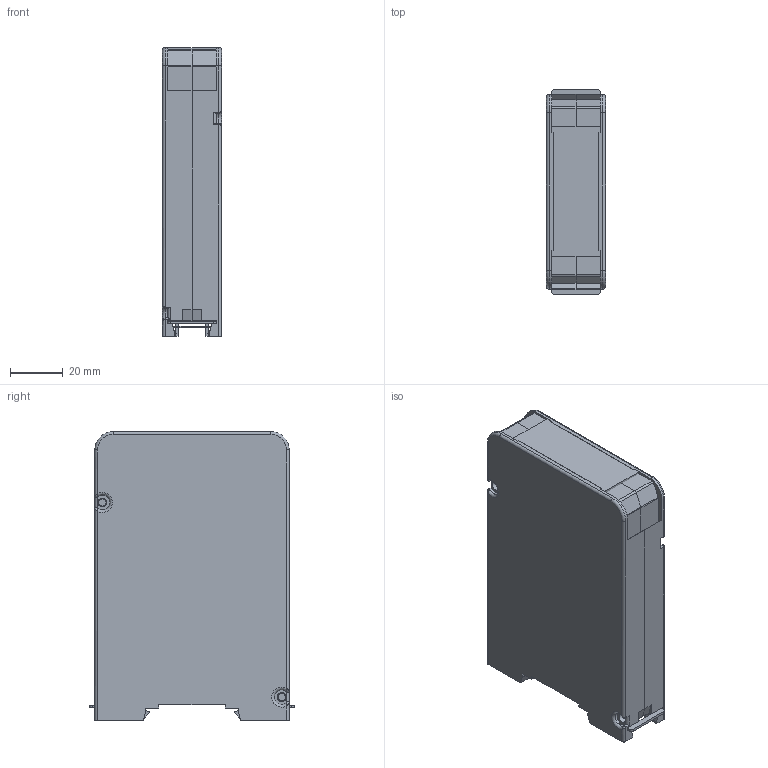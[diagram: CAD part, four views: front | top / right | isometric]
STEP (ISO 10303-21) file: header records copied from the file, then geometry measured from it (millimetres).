
FILE_DESCRIPTION(/* description */ (''),/* implementation_level */ '2;1');
FILE_NAME(/* name */ 'X:\Digidirect\CAD\Helmut Mess 03 2015\XM22\XM22.stp',/* time_stamp */ '2015-03-13T06:55:07+01:00',/* author */ ('m.jost'),/* organization */ (''),/* preprocessor_version */ 'ST-DEVELOPER v15.6',/* originating_system */ 'Autodesk Inventor 2015',/* authorisation */ '');
FILE_SCHEMA (('AUTOMOTIVE_DESIGN { 1 0 10303 214 3 1 1 }'));
Length unit declared in the file: millimetre
Products named in the file (2): XM22_Substitute_1; XM22
Assembly tree (1 placements, depth 2):
  XM22
    XM22_Substitute_1
Bounding box: 22.5 x 78 x 110 mm (x, y, z)
Surface area: 44579.9 mm2 (no closed solid volume)
Topology: 0 solids, 23 shells, 366 faces, 1369 edges, 974 vertices
Faces by surface type: plane 271, cylinder 73, bspline 12, torus 10
Full cylindrical faces by diameter (mm): 1 x1, 1.5 x2, 1.7 x2, 3.4 x4
Entity records: 15506 total; most frequent: CARTESIAN_POINT 4225, DIRECTION 2220, ORIENTED_EDGE 2144, EDGE_CURVE 1346, LINE 1106, VECTOR 1106, VERTEX_POINT 970, AXIS2_PLACEMENT_3D 557
